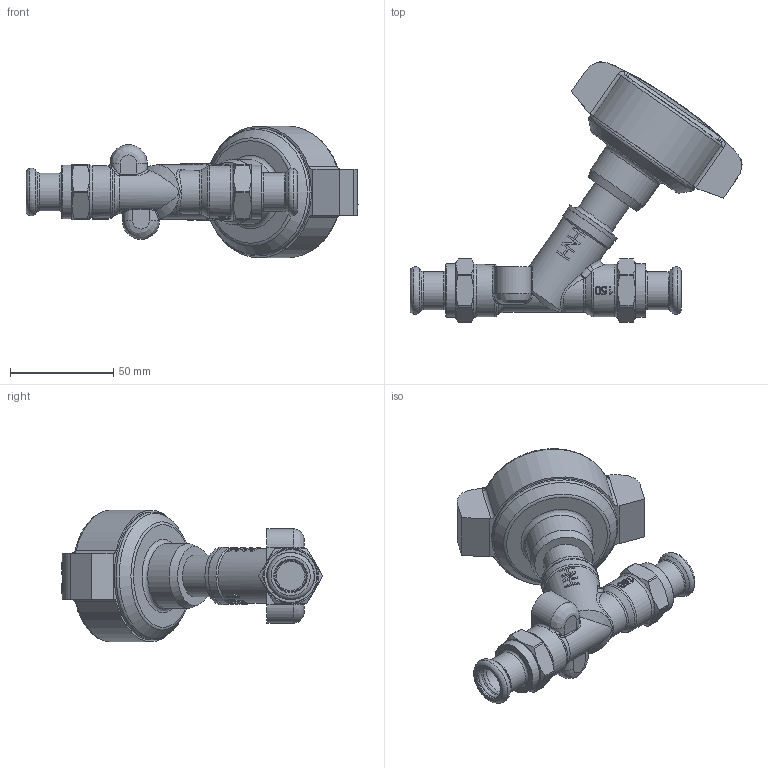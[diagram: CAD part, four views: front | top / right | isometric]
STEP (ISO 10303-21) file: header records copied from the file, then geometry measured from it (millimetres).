
FILE_DESCRIPTION((''),'2;1');
FILE_NAME('P:\Fastrack\53972_CRANE 3D\Push Fit\Fig_1432\Fig-1432-PF_15mm\Fig-1432-PF_15mm.stp','2011-08-24T16:44:13',('btaylor'),(''),'Autodesk Inventor 2008','Autodesk Inventor 2008','');
FILE_SCHEMA(('AUTOMOTIVE_DESIGN { 1 0 10303 214 1 1 1 1 }'));
Length unit declared in the file: millimetre
Products named in the file (1): Fig-1432-PF_15mm
Bounding box: 161.08 x 126.41 x 63.85 mm (x, y, z)
Volume: 207337.1 mm3; surface area: 36360 mm2
Topology: 1 solids, 3 shells, 657 faces, 1681 edges, 1088 vertices
Faces by surface type: plane 291, bspline 226, cylinder 94, cone 32, torus 14
Full cylindrical faces by diameter (mm): 15.2 x2, 15.75 x2, 18.45 x2, 20.3 x1, 25.4 x2, 26 x2, 26.4 x1, 27.5 x1, 28 x1, 31.5 x1, 61.958 x1
Entity records: 62813 total; most frequent: CARTESIAN_POINT 48568, ORIENTED_EDGE 3230, DIRECTION 2195, EDGE_CURVE 1615, VERTEX_POINT 1079, EDGE_LOOP 781, VECTOR 765, LINE 765
